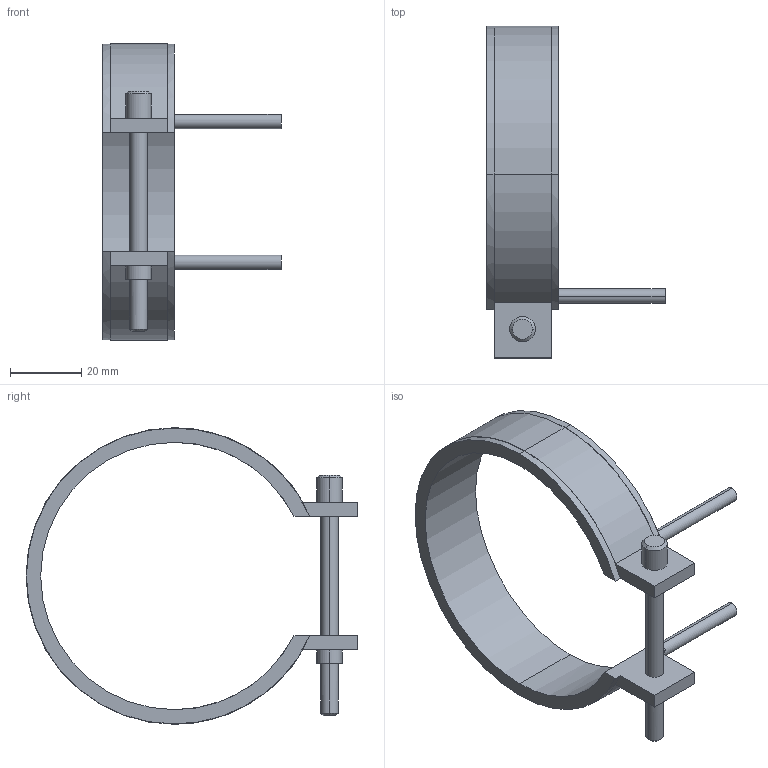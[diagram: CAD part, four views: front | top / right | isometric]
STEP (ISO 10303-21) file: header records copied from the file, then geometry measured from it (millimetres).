
FILE_DESCRIPTION(('CATIA V5 STEP Exchange'),'2;1');
FILE_NAME('C:\Users\Utente\Desktop\IO LAVORO\3D X SITO CF\X SITO\PLASTICA\RF2\14075020.stp','2021-04-03T08:47:06+00:00',('none'),('none'),'CATIA Version 5 Release 20 GA (IN-10)','CATIA V5 STEP AP203','none');
FILE_SCHEMA(('CONFIG_CONTROL_DESIGN'));
Length unit declared in the file: millimetre
Products named in the file (1): 14075020
Bounding box: 50 x 93.1 x 83.2 mm (x, y, z)
Volume: 21433.5 mm3; surface area: 13332.8 mm2
Topology: 1 solids, 1 shells, 45 faces, 116 edges, 76 vertices
Faces by surface type: cylinder 24, plane 17, cone 4
Entity records: 1406 total; most frequent: CARTESIAN_POINT 280, ORIENTED_EDGE 232, DIRECTION 196, EDGE_CURVE 116, AXIS2_PLACEMENT_3D 104, VERTEX_POINT 76, CIRCLE 62, VECTOR 52
